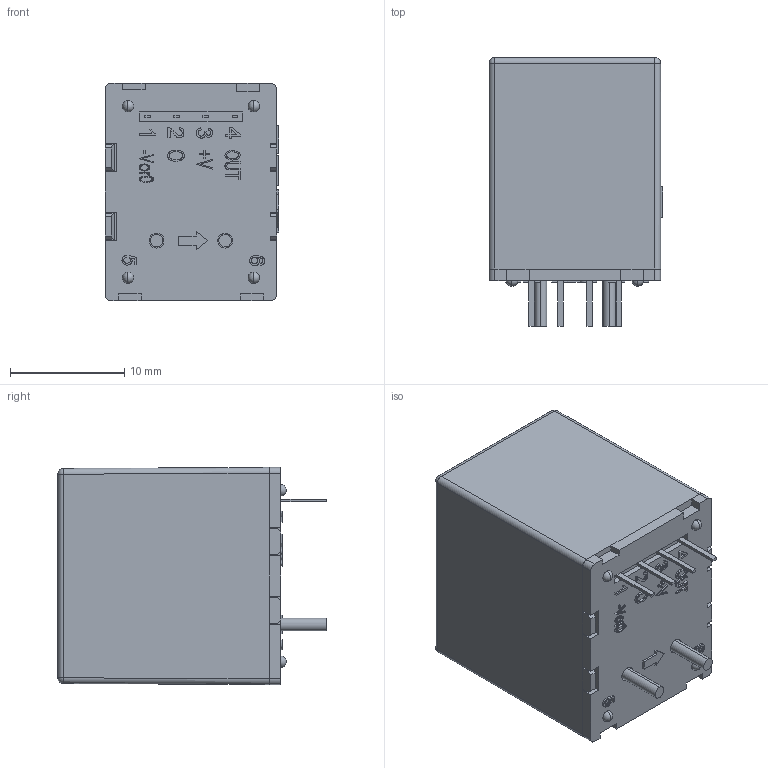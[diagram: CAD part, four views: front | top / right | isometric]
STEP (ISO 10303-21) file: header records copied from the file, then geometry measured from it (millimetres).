
FILE_DESCRIPTION(('Creo Elements/Direct Modeling STEP Export'),'2;1');
FILE_NAME('HXN 10-P_Blackbox.stp','2016-11-09T 9:42:10',(''),(''),'PTC Creo Elements/Direct Modeling STEP processor for AP214 (Solid Model)','PTC Creo Elements/Direct Modeling 19.0B 21-Mar-2015 (C) Parametric Technology GmbH','');
FILE_SCHEMA(('AUTOMOTIVE_DESIGN { 1 0 10303 214 1 1 1 1 }'));
Length unit declared in the file: millimetre
Products named in the file (2): HXN_10-P_BBOX
Assembly tree (1 placements, depth 2):
  HXN_10-P_BBOX
    HXN_10-P_BBOX
Bounding box: 15.2 x 23.5 x 19 mm (x, y, z)
Volume: 5526.4 mm3; surface area: 1976.2 mm2
Topology: 1 solids, 2 shells, 408 faces, 1062 edges, 687 vertices
Faces by surface type: plane 281, bspline 94, cylinder 20, sphere 13
Entity records: 17671 total; most frequent: CARTESIAN_POINT 8346, ORIENTED_EDGE 2100, DIRECTION 1433, EDGE_CURVE 1050, VECTOR 773, LINE 773, VERTEX_POINT 687, EDGE_LOOP 449
